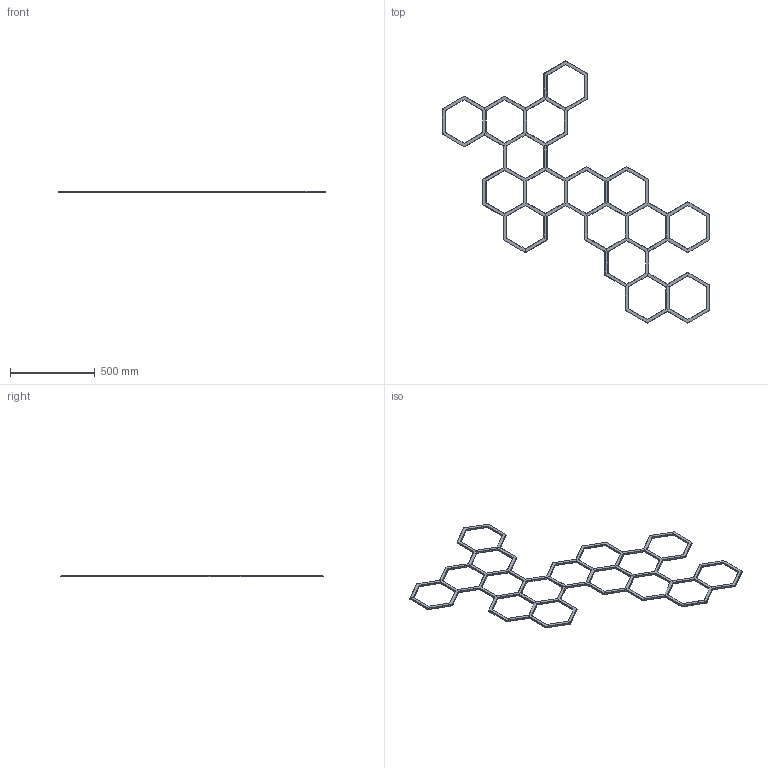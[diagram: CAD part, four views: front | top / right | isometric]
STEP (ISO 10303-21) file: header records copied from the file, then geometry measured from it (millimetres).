
FILE_DESCRIPTION(/* description */ (''),/* implementation_level */ '2;1');
FILE_NAME(/* name */ 'Diffusion Pieces Smaller Plates.step',/* time_stamp */ '2025-09-09T19:22:59+08:00',/* author */ (''),/* organization */ (''),/* preprocessor_version */ 'ST-DEVELOPER v20.1',/* originating_system */ 'Autodesk Translation Framework v14.10.0.0',/* authorisation */ '');
FILE_SCHEMA (('AUTOMOTIVE_DESIGN { 1 0 10303 214 3 1 1 }'));
Length unit declared in the file: millimetre
Products named in the file (1): Hex Light
Bounding box: 1580 x 1547.3 x 9.8 mm (x, y, z)
Volume: 515804.8 mm3; surface area: 749065.2 mm2
Topology: 48 solids, 48 shells, 985 faces, 2559 edges, 1670 vertices
Faces by surface type: plane 985
Entity records: 29357 total; most frequent: CARTESIAN_POINT 5215, ORIENTED_EDGE 5118, DIRECTION 4531, LINE 2559, VECTOR 2559, EDGE_CURVE 2559, VERTEX_POINT 1670, AXIS2_PLACEMENT_3D 986
